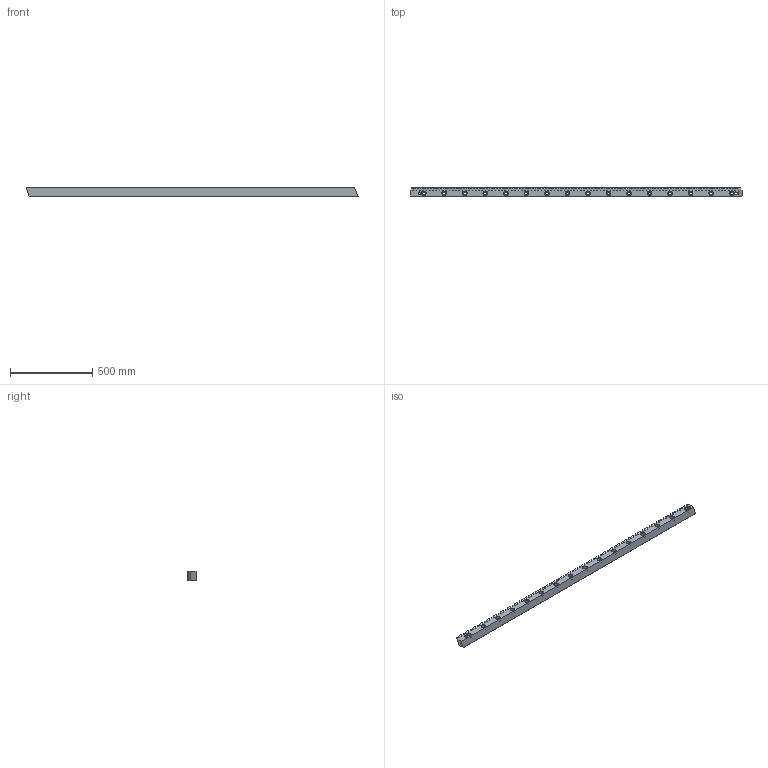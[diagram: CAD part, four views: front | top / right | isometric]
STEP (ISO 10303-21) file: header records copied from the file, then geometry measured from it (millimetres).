
FILE_DESCRIPTION (( 'STEP AP214' ), '1' );
FILE_NAME ('1HR16R060200H.STEP', '2021-12-06T11:43:16', ( '' ), ( '' ), 'SwSTEP 2.0', 'SolidWorks 2021', '' );
FILE_SCHEMA (( 'AUTOMOTIVE_DESIGN' ));
Length unit declared in the file: millimetre
Products named in the file (1): 1HR16R060200H
Bounding box: 2020.93 x 49 x 59 mm (x, y, z)
Volume: 4678791.9 mm3; surface area: 576774.6 mm2
Topology: 1 solids, 1 shells, 1159 faces, 3355 edges, 2214 vertices
Faces by surface type: plane 623, cylinder 468, cone 68
Entity records: 37535 total; most frequent: CARTESIAN_POINT 9129, ORIENTED_EDGE 6710, DIRECTION 5079, EDGE_CURVE 3355, LINE 2351, VECTOR 2351, VERTEX_POINT 2214, AXIS2_PLACEMENT_3D 1364
